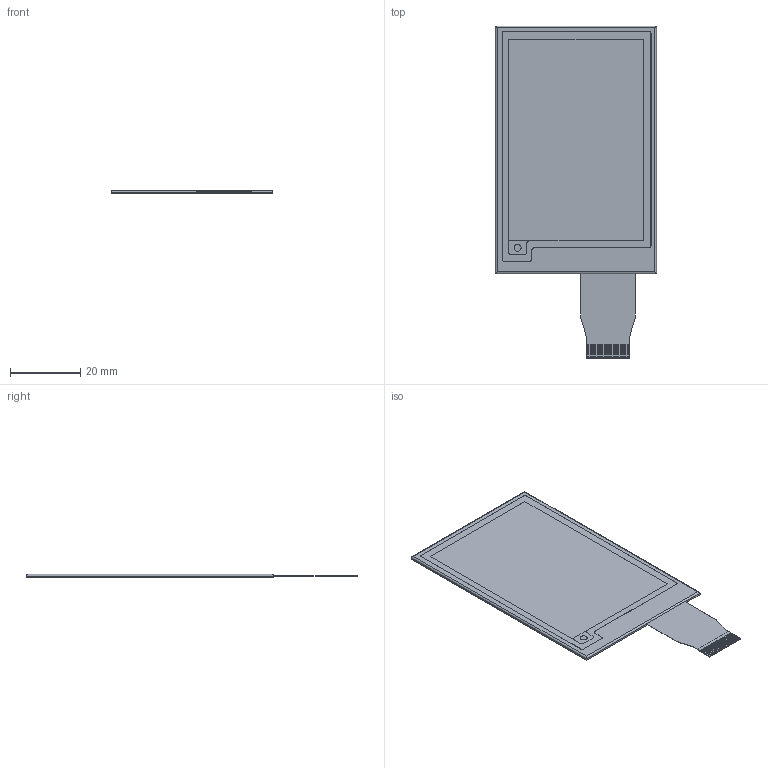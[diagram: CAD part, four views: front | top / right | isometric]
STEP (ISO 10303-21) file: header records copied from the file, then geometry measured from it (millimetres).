
FILE_DESCRIPTION (( 'STEP AP214' ), '1' );
FILE_NAME ('CFAP176264B0-0270_With_Flex_Tail.STEP', '2019-07-23T19:07:55', ( '' ), ( '' ), 'SwSTEP 2.0', 'SolidWorks 2015', '' );
FILE_SCHEMA (( 'AUTOMOTIVE_DESIGN' ));
Length unit declared in the file: millimetre
Products named in the file (1): CFAP176264B0-0270_With_Flex_Tail
Bounding box: 45.8 x 94.42 x 1 mm (x, y, z)
Volume: 3260.6 mm3; surface area: 7497.7 mm2
Topology: 4 solids, 4 shells, 184 faces, 446 edges, 296 vertices
Faces by surface type: plane 156, cylinder 22, torus 6
Entity records: 7010 total; most frequent: CARTESIAN_POINT 939, ORIENTED_EDGE 892, DIRECTION 860, EDGE_CURVE 446, VECTOR 394, LINE 394, VERTEX_POINT 296, AXIS2_PLACEMENT_3D 233
